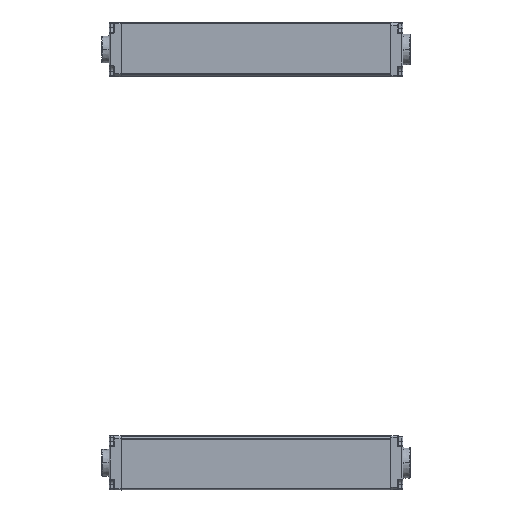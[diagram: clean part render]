
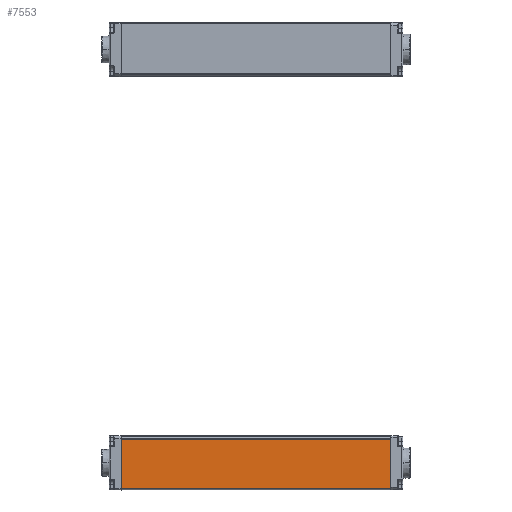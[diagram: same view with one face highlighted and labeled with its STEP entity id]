
A CAD part, left-side view. The second image highlights one B-rep face of the part: STEP entity #7553.
In plain terms, the highlighted planar face has unit normal (-1, 0, -0.009) as drawn and (1, 0, 0) by its records, which use the part's own axes.
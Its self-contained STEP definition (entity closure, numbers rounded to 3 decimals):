
#413 = CARTESIAN_POINT ( 'NONE',  ( 15., 0., -16.693 ) ) ;
#1330 = CARTESIAN_POINT ( 'NONE',  ( 15., 150., -16.9 ) ) ;
#2001 = VECTOR ( 'NONE', #3250, 1000. ) ;
#2048 = DIRECTION ( 'NONE',  ( 0., -1., 0. ) ) ;
#2424 = AXIS2_PLACEMENT_3D ( 'NONE', #1330, #6897, #12465 ) ;
#3079 = VERTEX_POINT ( 'NONE', #413 ) ;
#3250 = DIRECTION ( 'NONE',  ( 0., 1., 0. ) ) ;
#3806 = VERTEX_POINT ( 'NONE', #15144 ) ;
#4046 = EDGE_CURVE ( 'NONE', #3079, #7749, #10200, .T. ) ;
#4781 = LINE ( 'NONE', #14548, #6457 ) ;
#5382 = EDGE_CURVE ( 'NONE', #7772, #3079, #5471, .T. ) ;
#5436 = ORIENTED_EDGE ( 'NONE', *, *, #6575, .T. ) ;
#5471 = LINE ( 'NONE', #11036, #17744 ) ;
#5526 = DIRECTION ( 'NONE',  ( 0., 0., -1. ) ) ;
#6457 = VECTOR ( 'NONE', #2048, 1000. ) ;
#6575 = EDGE_CURVE ( 'NONE', #3806, #7772, #4781, .T. ) ;
#6897 = DIRECTION ( 'NONE',  ( -1., 0., 0. ) ) ;
#7553 = ADVANCED_FACE ( 'NONE', ( #8264 ), #13833, .F. ) ;
#7749 = VERTEX_POINT ( 'NONE', #11631 ) ;
#7772 = VERTEX_POINT ( 'NONE', #14454 ) ;
#8264 = FACE_OUTER_BOUND ( 'NONE', #16027, .T. ) ;
#8680 = ORIENTED_EDGE ( 'NONE', *, *, #15960, .F. ) ;
#8984 = ORIENTED_EDGE ( 'NONE', *, *, #4046, .T. ) ;
#10200 = LINE ( 'NONE', #15756, #2001 ) ;
#11036 = CARTESIAN_POINT ( 'NONE',  ( 15., 0., -16.9 ) ) ;
#11631 = CARTESIAN_POINT ( 'NONE',  ( 15., 150., -16.693 ) ) ;
#11761 = ORIENTED_EDGE ( 'NONE', *, *, #5382, .T. ) ;
#12453 = LINE ( 'NONE', #17986, #17339 ) ;
#12465 = DIRECTION ( 'NONE',  ( 0., 0., 1. ) ) ;
#13833 = PLANE ( 'NONE',  #2424 ) ;
#14454 = CARTESIAN_POINT ( 'NONE',  ( 15., 0., 10.9 ) ) ;
#14548 = CARTESIAN_POINT ( 'NONE',  ( 15., 150., 10.9 ) ) ;
#15144 = CARTESIAN_POINT ( 'NONE',  ( 15., 150., 10.9 ) ) ;
#15756 = CARTESIAN_POINT ( 'NONE',  ( 15., 150., -16.693 ) ) ;
#15960 = EDGE_CURVE ( 'NONE', #3806, #7749, #12453, .T. ) ;
#16027 = EDGE_LOOP ( 'NONE', ( #11761, #8984, #8680, #5436 ) ) ;
#16575 = DIRECTION ( 'NONE',  ( 0., 0., -1. ) ) ;
#17339 = VECTOR ( 'NONE', #5526, 1000. ) ;
#17744 = VECTOR ( 'NONE', #16575, 1000. ) ;
#17986 = CARTESIAN_POINT ( 'NONE',  ( 15., 150., -16.9 ) ) ;
